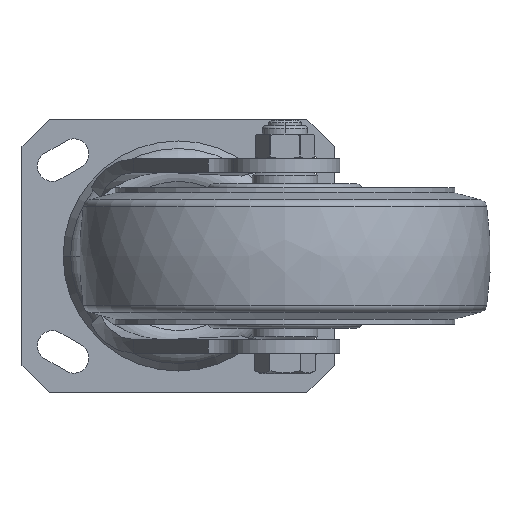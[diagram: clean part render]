
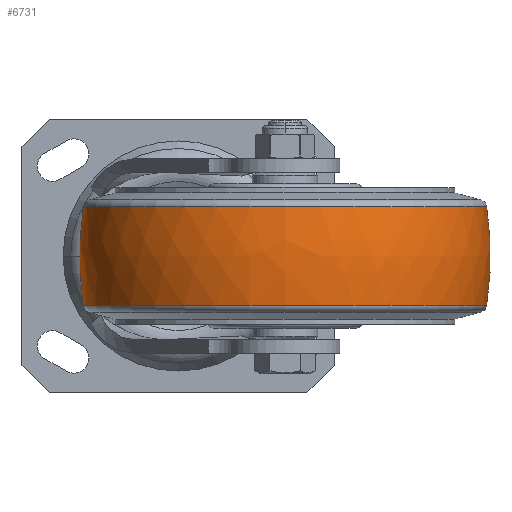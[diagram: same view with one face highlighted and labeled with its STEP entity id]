
A CAD part, front view. The second image highlights one B-rep face of the part: STEP entity #6731.
In plain terms, the highlighted free-form (B-spline) face has degree [3, 3] with [7, 4] control points.
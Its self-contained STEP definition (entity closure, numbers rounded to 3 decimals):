
#5899=CARTESIAN_POINT('',(0.,-45.032,0.));
#5900=DIRECTION('',(0.,0.,1.));
#5901=DIRECTION('',(0.15,0.989,0.));
#5902=AXIS2_PLACEMENT_3D('',#5899,#5900,#5901);
#5904=CARTESIAN_POINT('',(0.,45.032,
0.));
#5905=DIRECTION('',(0.,0.,-1.));
#5906=DIRECTION('',(0.15,-0.989,0.));
#5907=AXIS2_PLACEMENT_3D('',#5904,#5905,#5906);
#5909=CARTESIAN_POINT('',(18.03,0.,0.));
#5910=DIRECTION('',(-1.,0.,0.));
#5911=DIRECTION('',(0.,1.,0.));
#5912=AXIS2_PLACEMENT_3D('',#5909,#5910,#5911);
#5934=CARTESIAN_POINT('',(-18.03,0.,0.));
#5935=DIRECTION('',(-1.,0.,0.));
#5936=DIRECTION('',(0.,1.,0.));
#5937=AXIS2_PLACEMENT_3D('',#5934,#5935,#5936);
#6195=CARTESIAN_POINT('',(18.03,73.606,0.));
#6196=VERTEX_POINT('',#6195);
#6197=CARTESIAN_POINT('',(-18.03,73.606,0.));
#6198=VERTEX_POINT('',#6197);
#6259=CARTESIAN_POINT('',(18.03,-73.606,
0.));
#6260=VERTEX_POINT('',#6259);
#6261=CARTESIAN_POINT('',(-18.03,-73.606,
0.));
#6262=VERTEX_POINT('',#6261);
#6693=CARTESIAN_POINT('',(-18.745,-73.35,
4.615));
#6694=CARTESIAN_POINT('',(-6.3,-75.315,
4.738));
#6695=CARTESIAN_POINT('',(6.3,-75.315,4.738));
#6696=CARTESIAN_POINT('',(18.745,-73.35,4.615));
#6697=CARTESIAN_POINT('',(-18.745,-76.19,
-40.525));
#6698=CARTESIAN_POINT('',(-6.3,-78.231,
-41.61));
#6699=CARTESIAN_POINT('',(6.3,-78.231,
-41.61));
#6700=CARTESIAN_POINT('',(18.745,-76.19,
-40.525));
#6701=CARTESIAN_POINT('',(-18.745,-45.229,
-73.495));
#6702=CARTESIAN_POINT('',(-6.3,-46.44,
-75.463));
#6703=CARTESIAN_POINT('',(6.3,-46.44,
-75.463));
#6704=CARTESIAN_POINT('',(18.745,-45.229,
-73.495));
#6705=CARTESIAN_POINT('',(-18.745,0.,
-73.495));
#6706=CARTESIAN_POINT('',(-6.3,0.,
-75.463));
#6707=CARTESIAN_POINT('',(6.3,0.,
-75.463));
#6708=CARTESIAN_POINT('',(18.745,0.,
-73.495));
#6709=CARTESIAN_POINT('',(-18.745,45.229,
-73.495));
#6710=CARTESIAN_POINT('',(-6.3,46.44,
-75.463));
#6711=CARTESIAN_POINT('',(6.3,46.44,-75.463));
#6712=CARTESIAN_POINT('',(18.745,45.229,-73.495));
#6713=CARTESIAN_POINT('',(-18.745,76.19,
-40.525));
#6714=CARTESIAN_POINT('',(-6.3,78.231,
-41.61));
#6715=CARTESIAN_POINT('',(6.3,78.231,-41.61));
#6716=CARTESIAN_POINT('',(18.745,76.19,-40.525));
#6717=CARTESIAN_POINT('',(-18.745,73.35,4.615));
#6718=CARTESIAN_POINT('',(-6.3,75.315,4.738));
#6719=CARTESIAN_POINT('',(6.3,75.315,4.738));
#6720=CARTESIAN_POINT('',(18.745,73.35,4.615));
#6721=(BOUNDED_SURFACE()B_SPLINE_SURFACE(3,3,((#6693,#6694,#6695,#6696),(#6697,
#6698,#6699,#6700),(#6701,#6702,#6703,#6704),(#6705,#6706,#6707,#6708),(#6709,
#6710,#6711,#6712),(#6713,#6714,#6715,#6716),(#6717,#6718,#6719,#6720)),
.UNSPECIFIED.,.F.,.F.,.F.)B_SPLINE_SURFACE_WITH_KNOTS((4,3,4),(4,4),(0.,1.,
2.),(0.,1.),.UNSPECIFIED.)GEOMETRIC_REPRESENTATION_ITEM()RATIONAL_B_SPLINE_SURFACE(((1.195,1.185,1.185,1.195),(
0.943,0.936,0.936,0.943),(
0.943,0.936,0.936,0.943),(
1.195,1.185,1.185,1.195),(
0.943,0.936,0.936,0.943),(
0.943,0.936,0.936,0.943),(
1.195,1.185,1.185,1.195)))REPRESENTATION_ITEM('')SURFACE());
#6723=ORIENTED_EDGE('',*,*,#6722,.T.);
#6725=ORIENTED_EDGE('',*,*,#6724,.T.);
#6727=ORIENTED_EDGE('',*,*,#6726,.F.);
#6728=ORIENTED_EDGE('',*,*,#6686,.F.);
#6729=EDGE_LOOP('',(#6723,#6725,#6727,#6728));
#6730=FACE_OUTER_BOUND('',#6729,.F.);
#5903=CIRCLE('',#5902,120.);
#5908=CIRCLE('',#5907,120.);
#5913=CIRCLE('',#5912,73.606);
#5938=CIRCLE('',#5937,73.606);
#6686=EDGE_CURVE('',#6196,#6260,#5913,.T.);
#6722=EDGE_CURVE('',#6196,#6198,#5903,.T.);
#6724=EDGE_CURVE('',#6198,#6262,#5938,.T.);
#6726=EDGE_CURVE('',#6260,#6262,#5908,.T.);
#6731=ADVANCED_FACE('',(#6730),#6721,.T.);
